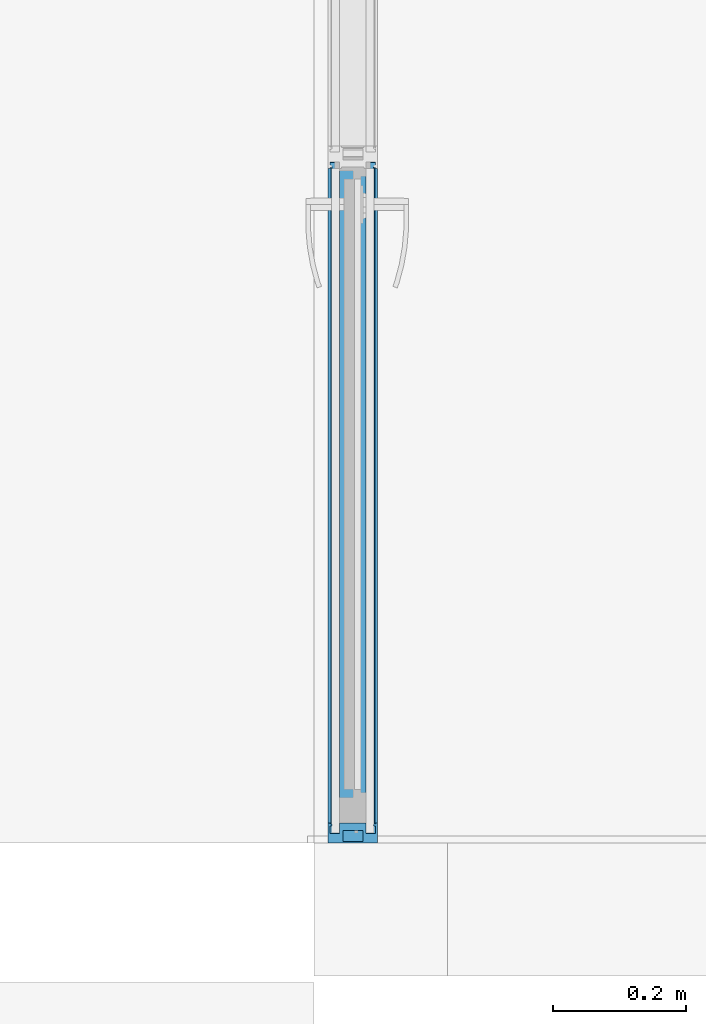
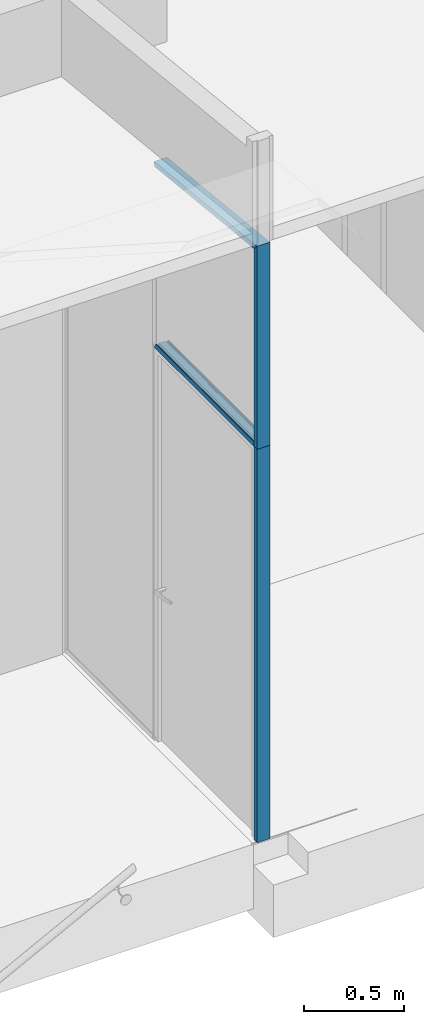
# One storey, part 11 of 43: 4 members, 1 element without a shape of its own.
"""IFC2X3 building model written with IfcOpenShell, lengths in millimetres."""

from ifc_helpers import new_model, entity, si_unit, converted_unit, derived_unit, money_unit, direction, frame, origin_with_axes, place, context, subcontext, project, spatial, faceted_brep, material, material_list, type_object, element, aggregate, save


model = new_model("IFC2X3")

# Units and contexts
model_context = context("Model", 3, precision=0.01, world=origin_with_axes(), true_north=direction((0.0, 1.0)))
body_context = subcontext(model_context, "Body", "Model", "MODEL_VIEW")
ifc_project = project(units=[si_unit("LENGTHUNIT", "METRE", prefix="MILLI"), si_unit("AREAUNIT", "SQUARE_METRE"), si_unit("VOLUMEUNIT", "CUBIC_METRE"), converted_unit("PLANEANGLEUNIT", "DEGREE", entity("IfcPlaneAngleMeasure", 0.0174532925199), si_unit("PLANEANGLEUNIT", "RADIAN"), dimensions=[0, 0, 0, 0, 0, 0, 0]), si_unit("SOLIDANGLEUNIT", "STERADIAN"), money_unit("EUR"), converted_unit("TIMEUNIT", "Year", entity("IfcTimeMeasure", 31556926.0), si_unit("TIMEUNIT", "SECOND"), dimensions=[0, 0, 1, 0, 0, 0, 0]), si_unit("MASSUNIT", "GRAM", prefix="KILO"), si_unit("THERMODYNAMICTEMPERATUREUNIT", "DEGREE_CELSIUS"), si_unit("LUMINOUSINTENSITYUNIT", "LUMEN"), si_unit("ENERGYUNIT", "JOULE", prefix="MEGA"), derived_unit("THERMALCONDUCTANCEUNIT", [(si_unit("POWERUNIT", "WATT"), 1), (si_unit("LENGTHUNIT", "METRE"), -1), (si_unit("THERMODYNAMICTEMPERATUREUNIT", "KELVIN"), -1)]), derived_unit("SPECIFICHEATCAPACITYUNIT", [(si_unit("ENERGYUNIT", "JOULE"), 1), (si_unit("MASSUNIT", "GRAM", prefix="KILO"), -1), (si_unit("THERMODYNAMICTEMPERATUREUNIT", "KELVIN"), -1)]), derived_unit("MASSDENSITYUNIT", [(si_unit("MASSUNIT", "GRAM", prefix="KILO"), 1), (si_unit("VOLUMEUNIT", "CUBIC_METRE"), -1)])], contexts=[model_context])

# Site, building, storey
site_placement = place(None, origin_with_axes())
site = spatial("IfcSite", under=ifc_project, at=site_placement, Name="L.Koidula tn 11b", CompositionType="ELEMENT")
building_placement = place(site_placement, origin_with_axes())
building = spatial("IfcBuilding", under=site, at=building_placement, Name="Rakvere Riigigümnaasium", CompositionType="ELEMENT")
storey_placement = place(building_placement, frame((0.0, 0.0, 6665.0), z_axis=(0.0, 0.0, 1.0), x_axis=(1.0, 0.0, 0.0)))
storey = spatial("IfcBuildingStorey", under=building, at=storey_placement, Name="3.korrus +6,66", CompositionType="ELEMENT", Elevation=6665.0)

# Curtain wall, members
curtain_wall_type = type_object("IfcCurtainWallType", Name="Curtain Wall Type", PredefinedType="NOTDEFINED")
curtain_wall_placement = place(storey_placement, frame((47063.0738161, 17825.4555095, 0.0), z_axis=(0.0, 0.0, 1.0), x_axis=(1.0, 0.0, 0.0)))
curtain_wall = element("IfcCurtainWall", 1, at=curtain_wall_placement, inside=storey, type_object=curtain_wall_type, Name="SKLF-24")
ifc_material_1 = material(Name="Klaasvill")
ifc_material_2 = material(Name="Teras RAL7012")
ifc_material_list = material_list([ifc_material_1, ifc_material_2])
member_type_1 = type_object("IfcMemberType", Name="Siseklaasfassaad-Servaprofiil-Doubleline30 30 x 42", PredefinedType="MULLION")
member_1_placement = place(curtain_wall_placement, frame((0.0, -515.0, 2400.0), z_axis=(0.0, 1.0, 0.0), x_axis=(0.0, 0.0, 1.0)))
member_1 = element("IfcMember", 2, at=member_1_placement, type_object=member_type_1, material=ifc_material_list, Name="Frame-Siseklaasf-362", ObjectType="MULLION", context=body_context, shape_type="Brep", body=[
    faceted_brep([(13.8499999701, 15.000000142, 30.0000193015), (13.8499999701, 15.000000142, 1022.15166282), (7.49999990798, 15.000000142, 1025.74999796), (7.49999990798, 15.000000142, 30.0000193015), (13.8499999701, 29.0161444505, 30.0000193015), (13.8499999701, 29.0161444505, 1022.15166282), (7.49999990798, 29.0161444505, 1025.74999796), (7.49999990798, 29.0161444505, 30.0000193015)], [[[0, 1, 2, 3]], [[4, 5, 1, 0]], [[2, 1, 5, 6]], [[3, 2, 6, 7]], [[3, 7, 4, 0]], [[7, 6, 5, 4]]]),
    faceted_brep([(25.004489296, 27.0307503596, 30.0000193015), (25.004489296, 27.0307503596, 1015.83078243), (24.987414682, 29.0161444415, 1015.84045805), (24.987414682, 29.0161444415, 30.0000193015), (25.742237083, 26.2930025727, 30.0000193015), (25.742237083, 26.2930025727, 1015.41272514), (26.7500193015, 26.0229681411, 1014.84164827), (27.75780152, 26.2930025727, 1014.2705714), (28.4955493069, 27.0307503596, 1013.85251411), (28.7655837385, 28.0385325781, 1013.69949453), (28.5126239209, 29.0161444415, 1013.8428385), (28.5126239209, 29.0161444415, 30.0000193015), (28.7655837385, 28.0385325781, 30.0000193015), (28.4955493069, 27.0307503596, 30.0000193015), (27.75780152, 26.2930025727, 30.0000193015), (26.7500193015, 26.0229681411, 30.0000193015)], [[[0, 1, 2, 3]], [[4, 5, 1, 0]], [[2, 1, 5, 6, 7, 8, 9, 10]], [[3, 2, 10, 11]], [[3, 11, 12, 13, 14, 15, 4, 0]], [[15, 6, 5, 4]], [[14, 7, 6, 15]], [[13, 8, 7, 14]], [[12, 9, 8, 13]], [[11, 10, 9, 12]]]),
    faceted_brep([(7.49999990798, -39.0161445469, 30.0000193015), (7.49999990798, -39.0161445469, 1025.74999796), (7.49999990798, -24.9999997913, 1025.74999796), (7.49999990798, -24.9999997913, 30.0000193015), (13.8499999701, -39.0161445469, 30.0000193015), (13.8499999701, -39.0161445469, 1022.15166282), (13.8499999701, -24.9999997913, 1022.15166282), (13.8499999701, -24.9999997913, 30.0000193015)], [[[0, 1, 2, 3]], [[4, 5, 1, 0]], [[2, 1, 5, 6]], [[3, 2, 6, 7]], [[3, 7, 4, 0]], [[7, 6, 5, 4]]]),
    faceted_brep([(24.987414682, -39.0161444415, 30.0000193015), (24.987414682, -39.0161444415, 1015.84045805), (25.004489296, -37.0307503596, 1015.83078243), (25.004489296, -37.0307503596, 30.0000193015), (28.5126239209, -39.0161444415, 30.0000193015), (28.5126239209, -39.0161444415, 1013.8428385), (28.7655837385, -38.0385325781, 1013.69949453), (28.4955493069, -37.0307503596, 1013.85251411), (27.75780152, -36.2930025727, 1014.2705714), (26.7500193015, -36.0229681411, 1014.84164827), (25.742237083, -36.2930025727, 1015.41272514), (25.742237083, -36.2930025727, 30.0000193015), (26.7500193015, -36.0229681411, 30.0000193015), (27.75780152, -36.2930025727, 30.0000193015), (28.4955493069, -37.0307503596, 30.0000193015), (28.7655837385, -38.0385325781, 30.0000193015)], [[[0, 1, 2, 3]], [[4, 5, 1, 0]], [[2, 1, 5, 6, 7, 8, 9, 10]], [[3, 2, 10, 11]], [[3, 11, 12, 13, 14, 15, 4, 0]], [[15, 6, 5, 4]], [[14, 7, 6, 15]], [[13, 8, 7, 14]], [[12, 9, 8, 13]], [[11, 10, 9, 12]]]),
    faceted_brep([(29.5999996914, -22.0000000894, 30.0000193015), (29.5999996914, -22.0000000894, 1013.22665859), (0.0, -22.0000000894, 1030.0), (0.0, -22.0000000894, 30.0000193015), (29.5999996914, 12.0000000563, 30.0000193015), (29.5999996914, 12.0000000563, 1013.22665859), (0.0, 12.0000000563, 1030.0), (1.9999999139, 10.0000001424, 1028.86666616), (18.7999996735, 10.0000001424, 1019.34666161), (18.7999996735, -20.0000001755, 1019.34666161), (1.9999999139, -20.0000001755, 1028.86666616), (0.0, 12.0000000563, 30.0000193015), (1.9999999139, 10.0000001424, 30.0000193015), (1.9999999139, -20.0000001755, 30.0000193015), (18.7999996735, -20.0000001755, 30.0000193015), (18.7999996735, 10.0000001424, 30.0000193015)], [[[0, 1, 2, 3]], [[4, 5, 1, 0]], [[2, 1, 5, 6], [7, 8, 9, 10]], [[3, 2, 6, 11]], [[3, 11, 4, 0], [12, 13, 14, 15]], [[11, 6, 5, 4]], [[15, 8, 7, 12]], [[14, 9, 8, 15]], [[13, 10, 9, 14]], [[12, 7, 10, 13]]]),
    faceted_brep([(29.5999996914, 12.0000000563, 30.0000193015), (29.5999996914, 12.0000000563, 1013.22665859), (0.0, 12.0, 1030.0), (0.0, 12.0, 30.0000193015), (30.0000193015, 12.0, 30.0000193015), (30.0000193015, 12.0, 1012.9999807), (30.0000193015, 15.0, 1012.9999807), (13.8499999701, 15.000000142, 1022.15166282), (7.49999999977, 15.0, 1025.74999791), (7.49999999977, 29.0161444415, 1025.74999791), (13.8499999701, 29.0161444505, 1022.15166282), (24.987414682, 29.0161444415, 1015.84045805), (28.5126239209, 29.0161444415, 1013.8428385), (30.0000193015, 29.0161444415, 1012.9999807), (30.0000193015, 32.0, 1012.9999807), (0.0, 32.0, 1030.0), (0.0, 32.0, 30.0000193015), (30.0000193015, 32.0, 30.0000193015), (30.0000193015, 29.0161444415, 30.0000193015), (28.5126239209, 29.0161444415, 30.0000193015), (24.987414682, 29.0161444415, 30.0000193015), (13.8499999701, 29.0161444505, 30.0000193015), (7.49999999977, 29.0161444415, 30.0000193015), (7.49999999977, 15.0, 30.0000193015), (13.8499999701, 15.000000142, 30.0000193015), (30.0000193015, 15.0, 30.0000193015)], [[[0, 1, 2, 3]], [[4, 5, 1, 0]], [[2, 1, 5, 6, 7, 8, 9, 10, 11, 12, 13, 14, 15]], [[3, 2, 15, 16]], [[3, 16, 17, 18, 19, 20, 21, 22, 23, 24, 25, 4, 0]], [[25, 6, 5, 4]], [[24, 7, 6, 25]], [[23, 8, 7, 24]], [[22, 9, 8, 23]], [[21, 10, 9, 22]], [[20, 11, 10, 21]], [[19, 12, 11, 20]], [[18, 13, 12, 19]], [[17, 14, 13, 18]], [[16, 15, 14, 17]]]),
    faceted_brep([(0.0, -42.0, 30.0000193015), (0.0, -42.0, 1030.0), (0.0, -22.0, 1030.0), (0.0, -22.0, 30.0000193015), (30.0000193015, -42.0, 30.0000193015), (30.0000193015, -42.0, 1012.9999807), (30.0000193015, -39.0161444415, 1012.9999807), (28.5126239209, -39.0161444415, 1013.8428385), (24.987414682, -39.0161444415, 1015.84045805), (13.8499999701, -39.0161445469, 1022.15166282), (7.49999999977, -39.0161444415, 1025.74999791), (7.49999999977, -25.0, 1025.74999791), (13.8499999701, -24.9999997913, 1022.15166282), (30.0000193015, -25.0, 1012.9999807), (30.0000193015, -22.0, 1012.9999807), (29.5999996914, -22.0000000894, 1013.22665859), (29.5999996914, -22.0000000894, 30.0000193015), (30.0000193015, -22.0, 30.0000193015), (30.0000193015, -25.0, 30.0000193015), (13.8499999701, -24.9999997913, 30.0000193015), (7.49999999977, -25.0, 30.0000193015), (7.49999999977, -39.0161444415, 30.0000193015), (13.8499999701, -39.0161445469, 30.0000193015), (24.987414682, -39.0161444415, 30.0000193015), (28.5126239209, -39.0161444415, 30.0000193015), (30.0000193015, -39.0161444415, 30.0000193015)], [[[0, 1, 2, 3]], [[4, 5, 1, 0]], [[2, 1, 5, 6, 7, 8, 9, 10, 11, 12, 13, 14, 15]], [[3, 2, 15, 16]], [[3, 16, 17, 18, 19, 20, 21, 22, 23, 24, 25, 4, 0]], [[25, 6, 5, 4]], [[24, 7, 6, 25]], [[23, 8, 7, 24]], [[22, 9, 8, 23]], [[21, 10, 9, 22]], [[20, 11, 10, 21]], [[19, 12, 11, 20]], [[18, 13, 12, 19]], [[17, 14, 13, 18]], [[16, 15, 14, 17]]]),
])
member_type_2 = type_object("IfcMemberType", Name="Boundary Frame 30 x 42", PredefinedType="MULLION")
member_2_placement = place(curtain_wall_placement, frame((0.0, -515.0, 0.0), z_axis=(0.0, 0.0, 1.0), x_axis=(0.0, -1.0, 0.0)))
member_2 = element("IfcMember", 3, at=member_2_placement, type_object=member_type_2, material=ifc_material_list, Name="SKLF-22-raam", ObjectType="MULLION", context=body_context, shape_type="Brep", body=[
    faceted_brep([(-7.49999990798, 15.000000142, 0.0), (-7.49999990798, 15.000000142, 2400.0), (-13.8499999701, 15.000000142, 2400.0), (-13.8499999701, 15.000000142, 0.0), (-7.49999990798, 29.0161444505, 0.0), (-7.49999990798, 29.0161444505, 2400.0), (-13.8499999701, 29.0161444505, 2400.0), (-13.8499999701, 29.0161444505, 0.0)], [[[0, 1, 2, 3]], [[4, 5, 1, 0]], [[1, 5, 6, 2]], [[3, 2, 6, 7]], [[0, 3, 7, 4]], [[7, 6, 5, 4]]]),
    faceted_brep([(-24.987414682, 29.0161444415, 0.0), (-24.987414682, 29.0161444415, 2400.0), (-25.004489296, 27.0307503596, 2400.0), (-25.004489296, 27.0307503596, 0.0), (-28.5126239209, 29.0161444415, 0.0), (-28.5126239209, 29.0161444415, 2400.0), (-28.7655837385, 28.0385325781, 2400.0), (-28.4955493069, 27.0307503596, 2400.0), (-27.75780152, 26.2930025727, 2400.0), (-26.7500193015, 26.0229681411, 2400.0), (-25.742237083, 26.2930025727, 2400.0), (-25.742237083, 26.2930025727, 0.0), (-26.7500193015, 26.0229681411, 0.0), (-27.75780152, 26.2930025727, 0.0), (-28.4955493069, 27.0307503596, 0.0), (-28.7655837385, 28.0385325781, 0.0)], [[[0, 1, 2, 3]], [[4, 5, 1, 0]], [[1, 5, 6, 7, 8, 9, 10, 2]], [[3, 2, 10, 11]], [[0, 3, 11, 12, 13, 14, 15, 4]], [[15, 6, 5, 4]], [[14, 7, 6, 15]], [[13, 8, 7, 14]], [[12, 9, 8, 13]], [[11, 10, 9, 12]]]),
    faceted_brep([(-7.49999990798, -24.9999997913, 0.0), (-7.49999990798, -24.9999997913, 2400.0), (-7.49999990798, -39.0161445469, 2400.0), (-7.49999990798, -39.0161445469, 0.0), (-13.8499999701, -24.9999997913, 0.0), (-13.8499999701, -24.9999997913, 2400.0), (-13.8499999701, -39.0161445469, 2400.0), (-13.8499999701, -39.0161445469, 0.0)], [[[0, 1, 2, 3]], [[4, 5, 1, 0]], [[1, 5, 6, 2]], [[3, 2, 6, 7]], [[0, 3, 7, 4]], [[7, 6, 5, 4]]]),
    faceted_brep([(-25.004489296, -37.0307503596, 0.0), (-25.004489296, -37.0307503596, 2400.0), (-24.987414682, -39.0161444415, 2400.0), (-24.987414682, -39.0161444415, 0.0), (-25.742237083, -36.2930025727, 0.0), (-25.742237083, -36.2930025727, 2400.0), (-26.7500193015, -36.0229681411, 2400.0), (-27.75780152, -36.2930025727, 2400.0), (-28.4955493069, -37.0307503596, 2400.0), (-28.7655837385, -38.0385325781, 2400.0), (-28.5126239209, -39.0161444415, 2400.0), (-28.5126239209, -39.0161444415, 0.0), (-28.7655837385, -38.0385325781, 0.0), (-28.4955493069, -37.0307503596, 0.0), (-27.75780152, -36.2930025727, 0.0), (-26.7500193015, -36.0229681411, 0.0)], [[[0, 1, 2, 3]], [[4, 5, 1, 0]], [[1, 5, 6, 7, 8, 9, 10, 2]], [[3, 2, 10, 11]], [[0, 3, 11, 12, 13, 14, 15, 4]], [[15, 6, 5, 4]], [[14, 7, 6, 15]], [[13, 8, 7, 14]], [[12, 9, 8, 13]], [[11, 10, 9, 12]]]),
    faceted_brep([(0.0, -22.0000000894, 0.0), (0.0, -22.0000000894, 2400.0), (-29.5999996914, -22.0000000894, 2400.0), (-29.5999996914, -22.0000000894, 0.0), (0.0, 12.0000000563, 0.0), (0.0, 12.0000000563, 2400.0), (-29.5999996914, 12.0000000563, 2400.0), (-1.9999999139, 10.0000001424, 2400.0), (-1.9999999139, -20.0000001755, 2400.0), (-18.7999996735, -20.0000001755, 2400.0), (-18.7999996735, 10.0000001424, 2400.0), (-29.5999996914, 12.0000000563, 0.0), (-1.9999999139, 10.0000001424, 0.0), (-18.7999996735, 10.0000001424, 0.0), (-18.7999996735, -20.0000001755, 0.0), (-1.9999999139, -20.0000001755, 0.0)], [[[0, 1, 2, 3]], [[4, 5, 1, 0]], [[1, 5, 6, 2], [7, 8, 9, 10]], [[3, 2, 6, 11]], [[0, 3, 11, 4], [12, 13, 14, 15]], [[11, 6, 5, 4]], [[15, 8, 7, 12]], [[14, 9, 8, 15]], [[13, 10, 9, 14]], [[12, 7, 10, 13]]]),
    faceted_brep([(0.0, 12.0, 0.0), (0.0, 12.0, 2400.0), (-29.5999996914, 12.0000000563, 2400.0), (-29.5999996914, 12.0000000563, 0.0), (0.0, 32.0, 0.0), (0.0, 32.0, 2400.0), (-30.0000193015, 32.0, 2400.0), (-30.0000193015, 29.0161444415, 2400.0), (-28.5126239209, 29.0161444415, 2400.0), (-24.987414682, 29.0161444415, 2400.0), (-13.8499999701, 29.0161444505, 2400.0), (-7.49999999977, 29.0161444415, 2400.0), (-7.49999999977, 15.0, 2400.0), (-13.8499999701, 15.000000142, 2400.0), (-30.0000193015, 15.0, 2400.0), (-30.0000193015, 12.0, 2400.0), (-30.0000193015, 12.0, 0.0), (-30.0000193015, 15.0, 0.0), (-13.8499999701, 15.000000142, 0.0), (-7.49999999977, 15.0, 0.0), (-7.49999999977, 29.0161444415, 0.0), (-13.8499999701, 29.0161444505, 0.0), (-24.987414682, 29.0161444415, 0.0), (-28.5126239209, 29.0161444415, 0.0), (-30.0000193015, 29.0161444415, 0.0), (-30.0000193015, 32.0, 0.0)], [[[0, 1, 2, 3]], [[4, 5, 1, 0]], [[1, 5, 6, 7, 8, 9, 10, 11, 12, 13, 14, 15, 2]], [[3, 2, 15, 16]], [[0, 3, 16, 17, 18, 19, 20, 21, 22, 23, 24, 25, 4]], [[25, 6, 5, 4]], [[24, 7, 6, 25]], [[23, 8, 7, 24]], [[22, 9, 8, 23]], [[21, 10, 9, 22]], [[20, 11, 10, 21]], [[19, 12, 11, 20]], [[18, 13, 12, 19]], [[17, 14, 13, 18]], [[16, 15, 14, 17]]]),
    faceted_brep([(0.0, -22.0, 0.0), (0.0, -22.0, 2400.0), (0.0, -42.0, 2400.0), (0.0, -42.0, 0.0), (-29.5999996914, -22.0000000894, 0.0), (-29.5999996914, -22.0000000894, 2400.0), (-30.0000193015, -22.0, 2400.0), (-30.0000193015, -25.0, 2400.0), (-13.8499999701, -24.9999997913, 2400.0), (-7.49999999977, -25.0, 2400.0), (-7.49999999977, -39.0161444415, 2400.0), (-13.8499999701, -39.0161445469, 2400.0), (-24.987414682, -39.0161444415, 2400.0), (-28.5126239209, -39.0161444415, 2400.0), (-30.0000193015, -39.0161444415, 2400.0), (-30.0000193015, -42.0, 2400.0), (-30.0000193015, -42.0, 0.0), (-30.0000193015, -39.0161444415, 0.0), (-28.5126239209, -39.0161444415, 0.0), (-24.987414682, -39.0161444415, 0.0), (-13.8499999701, -39.0161445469, 0.0), (-7.49999999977, -39.0161444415, 0.0), (-7.49999999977, -25.0, 0.0), (-13.8499999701, -24.9999997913, 0.0), (-30.0000193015, -25.0, 0.0), (-30.0000193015, -22.0, 0.0)], [[[0, 1, 2, 3]], [[4, 5, 1, 0]], [[1, 5, 6, 7, 8, 9, 10, 11, 12, 13, 14, 15, 2]], [[3, 2, 15, 16]], [[0, 3, 16, 17, 18, 19, 20, 21, 22, 23, 24, 25, 4]], [[25, 6, 5, 4]], [[24, 7, 6, 25]], [[23, 8, 7, 24]], [[22, 9, 8, 23]], [[21, 10, 9, 22]], [[20, 11, 10, 21]], [[19, 12, 11, 20]], [[18, 13, 12, 19]], [[17, 14, 13, 18]], [[16, 15, 14, 17]]]),
])
member_3_placement = place(curtain_wall_placement, frame((0.0, -515.0, 2400.0), z_axis=(0.0, 0.0, 1.0), x_axis=(0.0, -1.0, 0.0)))
member_3 = element("IfcMember", 4, at=member_3_placement, type_object=member_type_2, material=ifc_material_list, Name="SKLF-21-raam", ObjectType="MULLION", context=body_context, shape_type="Brep", body=[
    faceted_brep([(-7.49999990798, 15.000000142, 0.0), (-7.49999990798, 15.000000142, 1231.69019065), (-13.8499999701, 15.000000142, 1224.65451407), (-13.8499999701, 15.000000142, 0.0), (-7.49999990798, 29.0161444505, 0.0), (-7.49999990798, 29.0161444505, 1231.69019065), (-13.8499999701, 29.0161444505, 1224.65451407), (-13.8499999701, 29.0161444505, 0.0)], [[[0, 1, 2, 3]], [[4, 5, 1, 0]], [[1, 5, 6, 2]], [[3, 2, 6, 7]], [[0, 3, 7, 4]], [[7, 6, 5, 4]]]),
    faceted_brep([(-24.987414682, 29.0161444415, 0.0), (-24.987414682, 29.0161444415, 1212.31447515), (-25.004489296, 27.0307503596, 1212.29555681), (-25.004489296, 27.0307503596, 0.0), (-28.5126239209, 29.0161444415, 0.0), (-28.5126239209, 29.0161444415, 1208.40861186), (-28.7655837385, 28.0385325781, 1208.1283373), (-28.4955493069, 27.0307503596, 1208.4275302), (-27.75780152, 26.2930025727, 1209.2449404), (-26.7500193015, 26.0229681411, 1210.36154351), (-25.742237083, 26.2930025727, 1211.47814661), (-25.742237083, 26.2930025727, 0.0), (-26.7500193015, 26.0229681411, 0.0), (-27.75780152, 26.2930025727, 0.0), (-28.4955493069, 27.0307503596, 0.0), (-28.7655837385, 28.0385325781, 0.0)], [[[0, 1, 2, 3]], [[4, 5, 1, 0]], [[1, 5, 6, 7, 8, 9, 10, 2]], [[3, 2, 10, 11]], [[0, 3, 11, 12, 13, 14, 15, 4]], [[15, 6, 5, 4]], [[14, 7, 6, 15]], [[13, 8, 7, 14]], [[12, 9, 8, 13]], [[11, 10, 9, 12]]]),
    faceted_brep([(-7.49999990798, -24.9999997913, 0.0), (-7.49999990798, -24.9999997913, 1231.69019065), (-7.49999990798, -39.0161445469, 1231.69019065), (-7.49999990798, -39.0161445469, 0.0), (-13.8499999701, -24.9999997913, 0.0), (-13.8499999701, -24.9999997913, 1224.65451407), (-13.8499999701, -39.0161445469, 1224.65451407), (-13.8499999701, -39.0161445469, 0.0)], [[[0, 1, 2, 3]], [[4, 5, 1, 0]], [[1, 5, 6, 2]], [[3, 2, 6, 7]], [[0, 3, 7, 4]], [[7, 6, 5, 4]]]),
    faceted_brep([(-25.004489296, -37.0307503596, 0.0), (-25.004489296, -37.0307503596, 1212.29555681), (-24.987414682, -39.0161444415, 1212.31447515), (-24.987414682, -39.0161444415, 0.0), (-25.742237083, -36.2930025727, 0.0), (-25.742237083, -36.2930025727, 1211.47814661), (-26.7500193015, -36.0229681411, 1210.36154351), (-27.75780152, -36.2930025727, 1209.2449404), (-28.4955493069, -37.0307503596, 1208.4275302), (-28.7655837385, -38.0385325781, 1208.1283373), (-28.5126239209, -39.0161444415, 1208.40861186), (-28.5126239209, -39.0161444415, 0.0), (-28.7655837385, -38.0385325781, 0.0), (-28.4955493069, -37.0307503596, 0.0), (-27.75780152, -36.2930025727, 0.0), (-26.7500193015, -36.0229681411, 0.0)], [[[0, 1, 2, 3]], [[4, 5, 1, 0]], [[1, 5, 6, 7, 8, 9, 10, 2]], [[3, 2, 10, 11]], [[0, 3, 11, 12, 13, 14, 15, 4]], [[15, 6, 5, 4]], [[14, 7, 6, 15]], [[13, 8, 7, 14]], [[12, 9, 8, 13]], [[11, 10, 9, 12]]]),
    faceted_brep([(0.0, -22.0000000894, 0.0), (0.0, -22.0000000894, 1240.0000447), (-29.5999996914, -22.0000000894, 1207.20382065), (-29.5999996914, -22.0000000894, 0.0), (0.0, 12.0000000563, 0.0), (0.0, 12.0000000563, 1240.0000447), (-29.5999996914, 12.0000000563, 1207.20382065), (-1.9999999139, 10.0000001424, 1237.78408369), (-1.9999999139, -20.0000001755, 1237.78408369), (-18.7999996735, -20.0000001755, 1219.17001065), (-18.7999996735, 10.0000001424, 1219.17001065), (-29.5999996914, 12.0000000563, 0.0), (-1.9999999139, 10.0000001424, 0.0), (-18.7999996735, 10.0000001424, 0.0), (-18.7999996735, -20.0000001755, 0.0), (-1.9999999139, -20.0000001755, 0.0)], [[[0, 1, 2, 3]], [[4, 5, 1, 0]], [[1, 5, 6, 2], [7, 8, 9, 10]], [[3, 2, 6, 11]], [[0, 3, 11, 4], [12, 13, 14, 15]], [[11, 6, 5, 4]], [[15, 8, 7, 12]], [[14, 9, 8, 15]], [[13, 10, 9, 14]], [[12, 7, 10, 13]]]),
    faceted_brep([(0.0, 12.0, 0.0), (0.0, 12.0, 1240.0000447), (-29.5999996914, 12.0000000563, 1207.20382065), (-29.5999996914, 12.0000000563, 0.0), (0.0, 32.0, 0.0), (0.0, 32.0, 1240.0000447), (-30.0000193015, 32.0, 1206.76060671), (-30.0000193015, 29.0161444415, 1206.76060671), (-28.5126239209, 29.0161444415, 1208.40861186), (-24.987414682, 29.0161444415, 1212.31447515), (-13.8499999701, 29.0161444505, 1224.65451407), (-7.49999999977, 29.0161444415, 1231.69019055), (-7.49999999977, 15.0, 1231.69019055), (-13.8499999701, 15.000000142, 1224.65451407), (-30.0000193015, 15.0, 1206.76060671), (-30.0000193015, 12.0, 1206.76060671), (-30.0000193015, 12.0, 0.0), (-30.0000193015, 15.0, 0.0), (-13.8499999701, 15.000000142, 0.0), (-7.49999999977, 15.0, 0.0), (-7.49999999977, 29.0161444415, 0.0), (-13.8499999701, 29.0161444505, 0.0), (-24.987414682, 29.0161444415, 0.0), (-28.5126239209, 29.0161444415, 0.0), (-30.0000193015, 29.0161444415, 0.0), (-30.0000193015, 32.0, 0.0)], [[[0, 1, 2, 3]], [[4, 5, 1, 0]], [[1, 5, 6, 7, 8, 9, 10, 11, 12, 13, 14, 15, 2]], [[3, 2, 15, 16]], [[0, 3, 16, 17, 18, 19, 20, 21, 22, 23, 24, 25, 4]], [[25, 6, 5, 4]], [[24, 7, 6, 25]], [[23, 8, 7, 24]], [[22, 9, 8, 23]], [[21, 10, 9, 22]], [[20, 11, 10, 21]], [[19, 12, 11, 20]], [[18, 13, 12, 19]], [[17, 14, 13, 18]], [[16, 15, 14, 17]]]),
    faceted_brep([(0.0, -22.0, 0.0), (0.0, -22.0, 1240.0000447), (0.0, -42.0, 1240.0000447), (0.0, -42.0, 0.0), (-29.5999996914, -22.0000000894, 0.0), (-29.5999996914, -22.0000000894, 1207.20382065), (-30.0000193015, -22.0, 1206.76060671), (-30.0000193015, -25.0, 1206.76060671), (-13.8499999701, -24.9999997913, 1224.65451407), (-7.49999999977, -25.0, 1231.69019055), (-7.49999999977, -39.0161444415, 1231.69019055), (-13.8499999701, -39.0161445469, 1224.65451407), (-24.987414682, -39.0161444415, 1212.31447515), (-28.5126239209, -39.0161444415, 1208.40861186), (-30.0000193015, -39.0161444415, 1206.76060671), (-30.0000193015, -42.0, 1206.76060671), (-30.0000193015, -42.0, 0.0), (-30.0000193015, -39.0161444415, 0.0), (-28.5126239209, -39.0161444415, 0.0), (-24.987414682, -39.0161444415, 0.0), (-13.8499999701, -39.0161445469, 0.0), (-7.49999999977, -39.0161444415, 0.0), (-7.49999999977, -25.0, 0.0), (-13.8499999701, -24.9999997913, 0.0), (-30.0000193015, -25.0, 0.0), (-30.0000193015, -22.0, 0.0)], [[[0, 1, 2, 3]], [[4, 5, 1, 0]], [[1, 5, 6, 7, 8, 9, 10, 11, 12, 13, 14, 15, 2]], [[3, 2, 15, 16]], [[0, 3, 16, 17, 18, 19, 20, 21, 22, 23, 24, 25, 4]], [[25, 6, 5, 4]], [[24, 7, 6, 25]], [[23, 8, 7, 24]], [[22, 9, 8, 23]], [[21, 10, 9, 22]], [[20, 11, 10, 21]], [[19, 12, 11, 20]], [[18, 13, 12, 19]], [[17, 14, 13, 18]], [[16, 15, 14, 17]]]),
])
member_4_placement = place(curtain_wall_placement, frame((0.0, 515.0, 3534.19966134), z_axis=(0.0, -0.994765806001, 0.102181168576), x_axis=(0.0, -0.102181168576, -0.994765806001)))
member_4 = element("IfcMember", 5, at=member_4_placement, type_object=member_type_2, material=ifc_material_list, Name="SKLF-20-raam", ObjectType="MULLION", context=body_context, shape_type="Brep", body=[
    faceted_brep([(7.49999990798, 15.000000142, -4.19475372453e-07), (13.8499999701, 15.000000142, -4.19475372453e-07), (13.8499999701, 15.000000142, 1020.07405635), (7.49999990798, 15.000000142, 1027.10973294), (7.49999990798, 29.0161444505, -4.19475372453e-07), (13.8499999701, 29.0161444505, -4.19475372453e-07), (13.8499999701, 29.0161444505, 1020.07405635), (7.49999990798, 29.0161444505, 1027.10973294)], [[[0, 1, 2, 3]], [[0, 4, 5, 1]], [[1, 5, 6, 2]], [[3, 2, 6, 7]], [[4, 0, 3, 7]], [[5, 4, 7, 6]]]),
    faceted_brep([(24.987414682, 29.0161444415, -4.19475372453e-07), (25.004489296, 27.0307503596, -4.19475372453e-07), (25.004489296, 27.0307503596, 1007.71509909), (24.987414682, 29.0161444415, 1007.73401743), (28.5126239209, 29.0161444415, -4.19475372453e-07), (28.7655837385, 28.0385325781, -4.19475372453e-07), (28.4955493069, 27.0307503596, -4.19475372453e-07), (27.75780152, 26.2930025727, -4.19475372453e-07), (26.7500193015, 26.0229681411, -4.19475372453e-07), (25.742237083, 26.2930025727, -4.19475372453e-07), (25.742237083, 26.2930025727, 1006.89768889), (26.7500193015, 26.0229681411, 1005.78108579), (27.75780152, 26.2930025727, 1004.66448269), (28.4955493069, 27.0307503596, 1003.84707249), (28.7655837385, 28.0385325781, 1003.54787959), (28.5126239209, 29.0161444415, 1003.82815415)], [[[0, 1, 2, 3]], [[0, 4, 5, 6, 7, 8, 9, 1]], [[1, 9, 10, 2]], [[3, 2, 10, 11, 12, 13, 14, 15]], [[4, 0, 3, 15]], [[5, 4, 15, 14]], [[6, 5, 14, 13]], [[7, 6, 13, 12]], [[8, 7, 12, 11]], [[9, 8, 11, 10]]]),
    faceted_brep([(7.49999990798, -24.9999997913, -4.19475372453e-07), (7.49999990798, -39.0161445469, -4.19475372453e-07), (7.49999990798, -39.0161445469, 1027.10973294), (7.49999990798, -24.9999997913, 1027.10973294), (13.8499999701, -24.9999997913, -4.19475372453e-07), (13.8499999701, -39.0161445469, -4.19475372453e-07), (13.8499999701, -39.0161445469, 1020.07405635), (13.8499999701, -24.9999997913, 1020.07405635)], [[[0, 1, 2, 3]], [[0, 4, 5, 1]], [[1, 5, 6, 2]], [[3, 2, 6, 7]], [[4, 0, 3, 7]], [[5, 4, 7, 6]]]),
    faceted_brep([(25.004489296, -37.0307503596, -4.19475372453e-07), (24.987414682, -39.0161444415, -4.19475372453e-07), (24.987414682, -39.0161444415, 1007.73401743), (25.004489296, -37.0307503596, 1007.71509909), (25.742237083, -36.2930025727, -4.19475372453e-07), (26.7500193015, -36.0229681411, -4.19475372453e-07), (27.75780152, -36.2930025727, -4.19475372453e-07), (28.4955493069, -37.0307503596, -4.19475372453e-07), (28.7655837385, -38.0385325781, -4.19475372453e-07), (28.5126239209, -39.0161444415, -4.19475372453e-07), (28.5126239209, -39.0161444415, 1003.82815415), (28.7655837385, -38.0385325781, 1003.54787959), (28.4955493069, -37.0307503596, 1003.84707249), (27.75780152, -36.2930025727, 1004.66448269), (26.7500193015, -36.0229681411, 1005.78108579), (25.742237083, -36.2930025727, 1006.89768889)], [[[0, 1, 2, 3]], [[0, 4, 5, 6, 7, 8, 9, 1]], [[1, 9, 10, 2]], [[3, 2, 10, 11, 12, 13, 14, 15]], [[4, 0, 3, 15]], [[5, 4, 15, 14]], [[6, 5, 14, 13]], [[7, 6, 13, 12]], [[8, 7, 12, 11]], [[9, 8, 11, 10]]]),
    faceted_brep([(0.0, -22.0000000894, -4.19475372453e-07), (29.5999996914, -22.0000000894, -4.19475372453e-07), (29.5999996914, -22.0000000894, 1002.62336294), (0.0, -22.0000000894, 1035.41958699), (0.0, 12.0000000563, -4.19475372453e-07), (29.5999996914, 12.0000000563, -4.19475372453e-07), (1.9999999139, 10.0000001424, -4.19475372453e-07), (1.9999999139, -20.0000001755, -4.19475372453e-07), (18.7999996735, -20.0000001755, -4.19475372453e-07), (18.7999996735, 10.0000001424, -4.19475372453e-07), (29.5999996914, 12.0000000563, 1002.62336294), (0.0, 12.0000000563, 1035.41958699), (1.9999999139, 10.0000001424, 1033.20362598), (18.7999996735, 10.0000001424, 1014.58955294), (18.7999996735, -20.0000001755, 1014.58955294), (1.9999999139, -20.0000001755, 1033.20362598)], [[[0, 1, 2, 3]], [[0, 4, 5, 1], [6, 7, 8, 9]], [[1, 5, 10, 2]], [[3, 2, 10, 11], [12, 13, 14, 15]], [[4, 0, 3, 11]], [[5, 4, 11, 10]], [[7, 6, 12, 15]], [[8, 7, 15, 14]], [[9, 8, 14, 13]], [[6, 9, 13, 12]]]),
    faceted_brep([(0.0, 12.0, -4.19475372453e-07), (29.5999996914, 12.0000000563, -4.19475372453e-07), (29.5999996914, 12.0000000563, 1002.62336294), (0.0, 12.0, 1035.41958699), (0.0, 32.0, -4.19475372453e-07), (30.0000193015, 32.0, -4.19475372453e-07), (30.0000193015, 29.0161444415, -4.19475372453e-07), (28.5126239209, 29.0161444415, -4.19475372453e-07), (24.987414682, 29.0161444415, -4.19475372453e-07), (13.8499999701, 29.0161444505, -4.19475372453e-07), (7.49999999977, 29.0161444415, -4.19475372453e-07), (7.49999999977, 15.0, -4.19475372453e-07), (13.8499999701, 15.000000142, -4.19475372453e-07), (30.0000193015, 15.0, -4.19475372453e-07), (30.0000193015, 12.0, -4.19475372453e-07), (30.0000193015, 12.0, 1002.18014899), (30.0000193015, 15.0, 1002.18014899), (13.8499999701, 15.000000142, 1020.07405635), (7.49999999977, 15.0, 1027.10973284), (7.49999999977, 29.0161444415, 1027.10973284), (13.8499999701, 29.0161444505, 1020.07405635), (24.987414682, 29.0161444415, 1007.73401743), (28.5126239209, 29.0161444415, 1003.82815415), (30.0000193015, 29.0161444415, 1002.18014899), (30.0000193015, 32.0, 1002.18014899), (0.0, 32.0, 1035.41958699)], [[[0, 1, 2, 3]], [[0, 4, 5, 6, 7, 8, 9, 10, 11, 12, 13, 14, 1]], [[1, 14, 15, 2]], [[3, 2, 15, 16, 17, 18, 19, 20, 21, 22, 23, 24, 25]], [[4, 0, 3, 25]], [[5, 4, 25, 24]], [[6, 5, 24, 23]], [[7, 6, 23, 22]], [[8, 7, 22, 21]], [[9, 8, 21, 20]], [[10, 9, 20, 19]], [[11, 10, 19, 18]], [[12, 11, 18, 17]], [[13, 12, 17, 16]], [[14, 13, 16, 15]]]),
    faceted_brep([(0.0, -22.0, -4.19475372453e-07), (0.0, -42.0, -4.19475372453e-07), (0.0, -42.0, 1035.41958699), (0.0, -22.0, 1035.41958699), (29.5999996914, -22.0000000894, -4.19475372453e-07), (30.0000193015, -22.0, -4.19475372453e-07), (30.0000193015, -25.0, -4.19475372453e-07), (13.8499999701, -24.9999997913, -4.19475372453e-07), (7.49999999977, -25.0, -4.19475372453e-07), (7.49999999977, -39.0161444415, -4.19475372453e-07), (13.8499999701, -39.0161445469, -4.19475372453e-07), (24.987414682, -39.0161444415, -4.19475372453e-07), (28.5126239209, -39.0161444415, -4.19475372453e-07), (30.0000193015, -39.0161444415, -4.19475372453e-07), (30.0000193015, -42.0, -4.19475372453e-07), (30.0000193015, -42.0, 1002.18014899), (30.0000193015, -39.0161444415, 1002.18014899), (28.5126239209, -39.0161444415, 1003.82815415), (24.987414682, -39.0161444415, 1007.73401743), (13.8499999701, -39.0161445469, 1020.07405635), (7.49999999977, -39.0161444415, 1027.10973284), (7.49999999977, -25.0, 1027.10973284), (13.8499999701, -24.9999997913, 1020.07405635), (30.0000193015, -25.0, 1002.18014899), (30.0000193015, -22.0, 1002.18014899), (29.5999996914, -22.0000000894, 1002.62336294)], [[[0, 1, 2, 3]], [[0, 4, 5, 6, 7, 8, 9, 10, 11, 12, 13, 14, 1]], [[1, 14, 15, 2]], [[3, 2, 15, 16, 17, 18, 19, 20, 21, 22, 23, 24, 25]], [[4, 0, 3, 25]], [[5, 4, 25, 24]], [[6, 5, 24, 23]], [[7, 6, 23, 22]], [[8, 7, 22, 21]], [[9, 8, 21, 20]], [[10, 9, 20, 19]], [[11, 10, 19, 18]], [[12, 11, 18, 17]], [[13, 12, 17, 16]], [[14, 13, 16, 15]]]),
])
aggregate(curtain_wall, [member_2, member_1, member_3, member_4])

save(model, "model.ifc")
